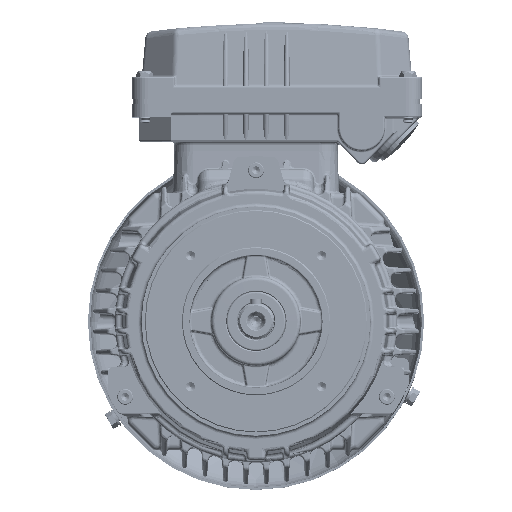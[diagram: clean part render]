
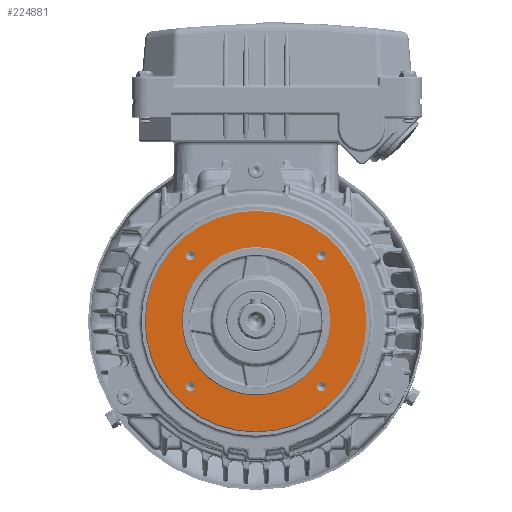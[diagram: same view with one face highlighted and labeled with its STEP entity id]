
A CAD part, top view. The second image highlights one B-rep face of the part: STEP entity #224881.
In plain terms, the highlighted planar face has unit normal (0, 0, 1).
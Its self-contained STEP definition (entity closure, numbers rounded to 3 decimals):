
#426 = DIRECTION ( 'NONE',  ( 1., 0., 0. ) ) ;
#1345 = DIRECTION ( 'NONE',  ( 0., 0., 1. ) ) ;
#1545 = CIRCLE ( 'NONE', #126513, 2.5 ) ;
#1641 = ORIENTED_EDGE ( 'NONE', *, *, #253529, .F. ) ;
#2249 = ORIENTED_EDGE ( 'NONE', *, *, #204930, .F. ) ;
#5661 = ORIENTED_EDGE ( 'NONE', *, *, #124294, .F. ) ;
#5708 = AXIS2_PLACEMENT_3D ( 'NONE', #63683, #127124, #213340 ) ;
#5799 = DIRECTION ( 'NONE',  ( 0., 0., 1. ) ) ;
#11971 = FACE_BOUND ( 'NONE', #250897, .T. ) ;
#12571 = EDGE_LOOP ( 'NONE', ( #184630, #109304 ) ) ;
#13980 = DIRECTION ( 'NONE',  ( 1., 0., 0. ) ) ;
#16616 = EDGE_CURVE ( 'NONE', #248823, #160317, #25923, .T. ) ;
#19951 = VERTEX_POINT ( 'NONE', #181672 ) ;
#20231 = VERTEX_POINT ( 'NONE', #52469 ) ;
#22215 = EDGE_CURVE ( 'NONE', #265917, #195648, #86571, .T. ) ;
#22545 = DIRECTION ( 'NONE',  ( 0., 0., 1. ) ) ;
#23381 = AXIS2_PLACEMENT_3D ( 'NONE', #175614, #173740, #426 ) ;
#24325 = DIRECTION ( 'NONE',  ( 0., 0., 1. ) ) ;
#25923 = CIRCLE ( 'NONE', #163601, 2.5 ) ;
#26282 = CIRCLE ( 'NONE', #23381, 2.5 ) ;
#27521 = CIRCLE ( 'NONE', #224612, 2.5 ) ;
#34348 = DIRECTION ( 'NONE',  ( 0., 0., 1. ) ) ;
#44987 = VERTEX_POINT ( 'NONE', #81196 ) ;
#47604 = CIRCLE ( 'NONE', #154463, 40.001 ) ;
#48132 = DIRECTION ( 'NONE',  ( 1., 0., 0. ) ) ;
#52469 = CARTESIAN_POINT ( 'NONE',  ( 37.855, -35.355, 100. ) ) ;
#54965 = EDGE_CURVE ( 'NONE', #187062, #20231, #27521, .T. ) ;
#63285 = EDGE_CURVE ( 'NONE', #138253, #188499, #47604, .T. ) ;
#63480 = CARTESIAN_POINT ( 'NONE',  ( 0., 0., 100. ) ) ;
#63683 = CARTESIAN_POINT ( 'NONE',  ( 0., 0., 100. ) ) ;
#70104 = CIRCLE ( 'NONE', #190578, 2.5 ) ;
#72742 = DIRECTION ( 'NONE',  ( 1., 0., 0. ) ) ;
#73241 = CARTESIAN_POINT ( 'NONE',  ( 32.855, 35.355, 100. ) ) ;
#73251 = DIRECTION ( 'NONE',  ( 1., 0., 0. ) ) ;
#74241 = CIRCLE ( 'NONE', #255793, 40.001 ) ;
#75850 = CARTESIAN_POINT ( 'NONE',  ( 37.855, 35.355, 100. ) ) ;
#76705 = DIRECTION ( 'NONE',  ( 0., 0., 1. ) ) ;
#77048 = FACE_OUTER_BOUND ( 'NONE', #267268, .T. ) ;
#77380 = CARTESIAN_POINT ( 'NONE',  ( 32.855, -35.355, 100. ) ) ;
#78336 = DIRECTION ( 'NONE',  ( 1., 0., 0. ) ) ;
#81196 = CARTESIAN_POINT ( 'NONE',  ( -59.5, 0., 100. ) ) ;
#83720 = DIRECTION ( 'NONE',  ( 1., 0., 0. ) ) ;
#86571 = CIRCLE ( 'NONE', #172001, 2.5 ) ;
#95254 = CARTESIAN_POINT ( 'NONE',  ( -35.355, 35.355, 100. ) ) ;
#98268 = VERTEX_POINT ( 'NONE', #253848 ) ;
#98981 = DIRECTION ( 'NONE',  ( 1., 0., 0. ) ) ;
#99739 = DIRECTION ( 'NONE',  ( 1., 0., 0. ) ) ;
#101585 = CARTESIAN_POINT ( 'NONE',  ( 35.355, -35.355, 100. ) ) ;
#101755 = AXIS2_PLACEMENT_3D ( 'NONE', #279062, #123286, #13980 ) ;
#104014 = VERTEX_POINT ( 'NONE', #170003 ) ;
#104790 = EDGE_CURVE ( 'NONE', #188499, #138253, #74241, .T. ) ;
#105874 = ORIENTED_EDGE ( 'NONE', *, *, #22215, .F. ) ;
#107287 = CARTESIAN_POINT ( 'NONE',  ( -37.855, -35.355, 100. ) ) ;
#109304 = ORIENTED_EDGE ( 'NONE', *, *, #16616, .F. ) ;
#113787 = ORIENTED_EDGE ( 'NONE', *, *, #243769, .T. ) ;
#114818 = FACE_BOUND ( 'NONE', #170258, .T. ) ;
#116084 = EDGE_LOOP ( 'NONE', ( #276707, #1641 ) ) ;
#123070 = DIRECTION ( 'NONE',  ( 0., 0., 1. ) ) ;
#123286 = DIRECTION ( 'NONE',  ( 0., 0., 1. ) ) ;
#124294 = EDGE_CURVE ( 'NONE', #195648, #265917, #195057, .T. ) ;
#126513 = AXIS2_PLACEMENT_3D ( 'NONE', #95254, #181611, #73251 ) ;
#127124 = DIRECTION ( 'NONE',  ( 0., 0., 1. ) ) ;
#130113 = CARTESIAN_POINT ( 'NONE',  ( -32.855, -35.355, 100. ) ) ;
#138253 = VERTEX_POINT ( 'NONE', #231038 ) ;
#140235 = CIRCLE ( 'NONE', #224017, 59.5 ) ;
#141339 = AXIS2_PLACEMENT_3D ( 'NONE', #220673, #24325, #48132 ) ;
#149849 = EDGE_CURVE ( 'NONE', #160317, #248823, #70104, .T. ) ;
#150351 = ORIENTED_EDGE ( 'NONE', *, *, #104790, .F. ) ;
#153718 = CARTESIAN_POINT ( 'NONE',  ( -35.355, -35.355, 100. ) ) ;
#154463 = AXIS2_PLACEMENT_3D ( 'NONE', #212130, #123070, #98981 ) ;
#160317 = VERTEX_POINT ( 'NONE', #75850 ) ;
#161961 = EDGE_LOOP ( 'NONE', ( #2249, #217360 ) ) ;
#163601 = AXIS2_PLACEMENT_3D ( 'NONE', #283728, #174740, #83720 ) ;
#166771 = DIRECTION ( 'NONE',  ( 0., 0., 1. ) ) ;
#169395 = EDGE_CURVE ( 'NONE', #98268, #44987, #199052, .T. ) ;
#170003 = CARTESIAN_POINT ( 'NONE',  ( -37.855, 35.355, 100. ) ) ;
#170258 = EDGE_LOOP ( 'NONE', ( #105874, #5661 ) ) ;
#172001 = AXIS2_PLACEMENT_3D ( 'NONE', #182997, #5799, #72742 ) ;
#173308 = ORIENTED_EDGE ( 'NONE', *, *, #169395, .T. ) ;
#173740 = DIRECTION ( 'NONE',  ( 0., 0., 1. ) ) ;
#174624 = CARTESIAN_POINT ( 'NONE',  ( 40.001, 0., 100. ) ) ;
#174740 = DIRECTION ( 'NONE',  ( 0., 0., 1. ) ) ;
#175614 = CARTESIAN_POINT ( 'NONE',  ( 35.355, -35.355, 100. ) ) ;
#181611 = DIRECTION ( 'NONE',  ( 0., 0., 1. ) ) ;
#181672 = CARTESIAN_POINT ( 'NONE',  ( -32.855, 35.355, 100. ) ) ;
#182997 = CARTESIAN_POINT ( 'NONE',  ( -35.355, -35.355, 100. ) ) ;
#184630 = ORIENTED_EDGE ( 'NONE', *, *, #149849, .F. ) ;
#186837 = FACE_BOUND ( 'NONE', #161961, .T. ) ;
#187062 = VERTEX_POINT ( 'NONE', #77380 ) ;
#188499 = VERTEX_POINT ( 'NONE', #174624 ) ;
#190578 = AXIS2_PLACEMENT_3D ( 'NONE', #274857, #76705, #208137 ) ;
#195057 = CIRCLE ( 'NONE', #210059, 2.5 ) ;
#195648 = VERTEX_POINT ( 'NONE', #107287 ) ;
#196862 = DIRECTION ( 'NONE',  ( 1., 0., 0. ) ) ;
#199052 = CIRCLE ( 'NONE', #5708, 59.5 ) ;
#204930 = EDGE_CURVE ( 'NONE', #20231, #187062, #26282, .T. ) ;
#208137 = DIRECTION ( 'NONE',  ( 1., 0., 0. ) ) ;
#210059 = AXIS2_PLACEMENT_3D ( 'NONE', #153718, #22545, #196862 ) ;
#212130 = CARTESIAN_POINT ( 'NONE',  ( 0., 0., 100. ) ) ;
#213340 = DIRECTION ( 'NONE',  ( 1., 0., 0. ) ) ;
#217360 = ORIENTED_EDGE ( 'NONE', *, *, #54965, .F. ) ;
#219927 = ORIENTED_EDGE ( 'NONE', *, *, #63285, .F. ) ;
#220673 = CARTESIAN_POINT ( 'NONE',  ( 0., 40.001, 100. ) ) ;
#224017 = AXIS2_PLACEMENT_3D ( 'NONE', #63480, #1345, #237917 ) ;
#224536 = FACE_BOUND ( 'NONE', #12571, .T. ) ;
#224612 = AXIS2_PLACEMENT_3D ( 'NONE', #101585, #166771, #99739 ) ;
#224881 = ADVANCED_FACE ( 'NONE', ( #77048, #234861, #224536, #186837, #114818, #11971 ), #242676, .T. ) ;
#226082 = CARTESIAN_POINT ( 'NONE',  ( 0., 0., 100. ) ) ;
#231038 = CARTESIAN_POINT ( 'NONE',  ( -40.001, 0., 100. ) ) ;
#231053 = EDGE_CURVE ( 'NONE', #19951, #104014, #282424, .T. ) ;
#234861 = FACE_BOUND ( 'NONE', #116084, .T. ) ;
#237917 = DIRECTION ( 'NONE',  ( 1., 0., 0. ) ) ;
#242676 = PLANE ( 'NONE',  #141339 ) ;
#243769 = EDGE_CURVE ( 'NONE', #44987, #98268, #140235, .T. ) ;
#248823 = VERTEX_POINT ( 'NONE', #73241 ) ;
#250897 = EDGE_LOOP ( 'NONE', ( #150351, #219927 ) ) ;
#253529 = EDGE_CURVE ( 'NONE', #104014, #19951, #1545, .T. ) ;
#253848 = CARTESIAN_POINT ( 'NONE',  ( 59.5, 0., 100. ) ) ;
#255793 = AXIS2_PLACEMENT_3D ( 'NONE', #226082, #34348, #78336 ) ;
#265917 = VERTEX_POINT ( 'NONE', #130113 ) ;
#267268 = EDGE_LOOP ( 'NONE', ( #113787, #173308 ) ) ;
#274857 = CARTESIAN_POINT ( 'NONE',  ( 35.355, 35.355, 100. ) ) ;
#276707 = ORIENTED_EDGE ( 'NONE', *, *, #231053, .F. ) ;
#279062 = CARTESIAN_POINT ( 'NONE',  ( -35.355, 35.355, 100. ) ) ;
#282424 = CIRCLE ( 'NONE', #101755, 2.5 ) ;
#283728 = CARTESIAN_POINT ( 'NONE',  ( 35.355, 35.355, 100. ) ) ;
